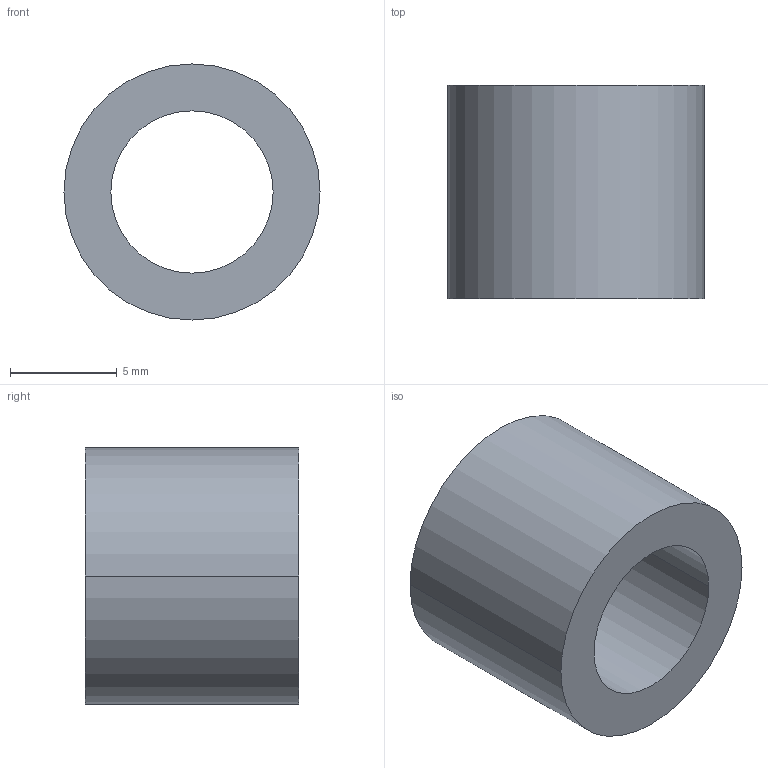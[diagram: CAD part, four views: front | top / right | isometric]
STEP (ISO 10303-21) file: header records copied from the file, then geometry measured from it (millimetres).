
FILE_DESCRIPTION (( 'STEP AP203' ), '1' );
FILE_NAME ('30800.WPP12D7.6.step', '2019-01-23T22:28:15', ( '' ), ( '' ), 'SwSTEP 2.0', 'SolidWorks 2017', '' );
FILE_SCHEMA (( 'CONFIG_CONTROL_DESIGN' ));
Length unit declared in the file: millimetre
Products named in the file (1): 30800.WPP12D7.6
Bounding box: 12 x 10 x 12 mm (x, y, z)
Volume: 664.8 mm3; surface area: 736.8 mm2
Topology: 1 solids, 1 shells, 8 faces, 16 edges, 10 vertices
Faces by surface type: cylinder 4, torus 2, plane 2
Entity records: 297 total; most frequent: DIRECTION 46, CARTESIAN_POINT 35, ORIENTED_EDGE 32, AXIS2_PLACEMENT_3D 21, EDGE_CURVE 16, CIRCLE 12, VERTEX_POINT 10, EDGE_LOOP 10
